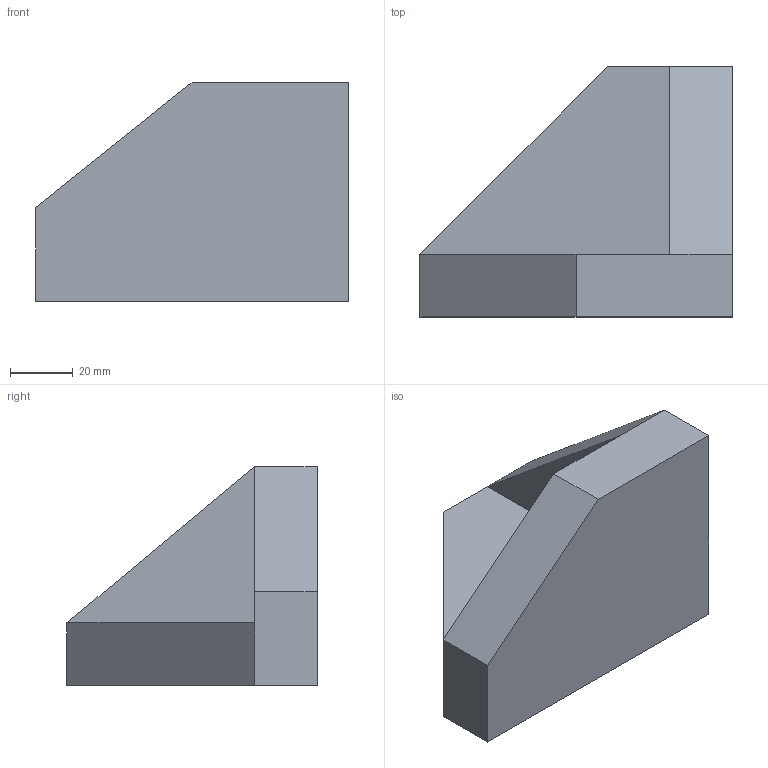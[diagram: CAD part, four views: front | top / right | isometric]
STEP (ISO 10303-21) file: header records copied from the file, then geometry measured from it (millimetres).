
FILE_DESCRIPTION(/* description */ (''),/* implementation_level */ '2;1');
FILE_NAME(/* time_stamp */ '2020-06-16T15:00:42+01:00',/* author */ ('DesignClass.co.uk'),/* originating_system */ 'Solidworks 2021',/* authorisation */ '');
FILE_SCHEMA (('AUTOMOTIVE_DESIGN { 1 0 10303 214 3 1 1 }'));
Length unit declared in the file: millimetre
Products named in the file (1): Task_2
Bounding box: 100 x 80 x 70 mm (x, y, z)
Volume: 234000 mm3; surface area: 30739.7 mm2
Topology: 1 solids, 1 shells, 12 faces, 27 edges, 17 vertices
Faces by surface type: plane 12
Entity records: 368 total; most frequent: CARTESIAN_POINT 57, ORIENTED_EDGE 54, DIRECTION 53, LINE 27, VECTOR 27, EDGE_CURVE 27, VERTEX_POINT 17, AXIS2_PLACEMENT_3D 13
